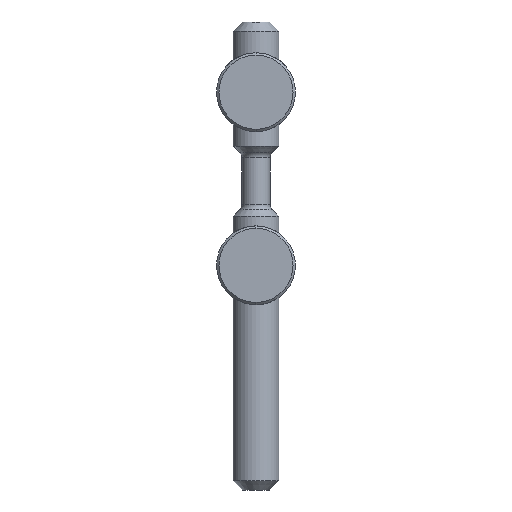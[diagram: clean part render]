
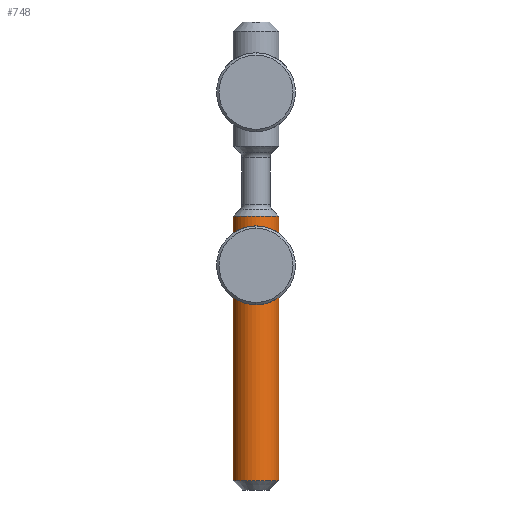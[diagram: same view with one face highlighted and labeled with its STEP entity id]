
A CAD part, front view. The second image highlights one B-rep face of the part: STEP entity #748.
In plain terms, the highlighted cylindrical face has radius 4.9 mm (diameter 9.8 mm), a partial arc.
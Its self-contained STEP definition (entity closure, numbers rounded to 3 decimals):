
#748 = ADVANCED_FACE ( 'NONE', ( #4900 ), #4901, .T. ) ;
#899 = CARTESIAN_POINT ( 'NONE',  ( 4.9, 0., -46. ) ) ;
#900 = CARTESIAN_POINT ( 'NONE',  ( -4.9, 0., -46. ) ) ;
#902 = CARTESIAN_POINT ( 'NONE',  ( -4.9, 0., 10.5 ) ) ;
#905 = CARTESIAN_POINT ( 'NONE',  ( 4.9, 0., 10.5 ) ) ;
#1074 = LINE ( 'NONE', #2908, #1080 ) ;
#1076 = VECTOR ( 'NONE', #2906, 1000. ) ;
#1077 = LINE ( 'NONE', #2905, #1076 ) ;
#1080 = VECTOR ( 'NONE', #2860, 1000. ) ;
#1104 = CIRCLE ( 'NONE', #1834, 4.9 ) ;
#1105 = CIRCLE ( 'NONE', #1835, 4.9 ) ;
#1247 = DIRECTION ( 'NONE',  ( 1., 0., 0. ) ) ;
#1248 = CARTESIAN_POINT ( 'NONE',  ( 0., 0., 25.719 ) ) ;
#1249 = DIRECTION ( 'NONE',  ( 0., 0., 1. ) ) ;
#1834 = AXIS2_PLACEMENT_3D ( 'NONE', #3029, #3030, #3031 ) ;
#1835 = AXIS2_PLACEMENT_3D ( 'NONE', #3034, #3035, #3036 ) ;
#2577 = EDGE_CURVE ( 'NONE', #5359, #5361, #1077, .T. ) ;
#2579 = EDGE_CURVE ( 'NONE', #5358, #5364, #1074, .T. ) ;
#2673 = EDGE_CURVE ( 'NONE', #5361, #5364, #1104, .T. ) ;
#2674 = EDGE_CURVE ( 'NONE', #5359, #5358, #1105, .T. ) ;
#2860 = DIRECTION ( 'NONE',  ( 0., 0., 1. ) ) ;
#2905 = CARTESIAN_POINT ( 'NONE',  ( -4.9, 0., 25.719 ) ) ;
#2906 = DIRECTION ( 'NONE',  ( 0., 0., 1. ) ) ;
#2908 = CARTESIAN_POINT ( 'NONE',  ( 4.9, 0., 25.719 ) ) ;
#3029 = CARTESIAN_POINT ( 'NONE',  ( 0., 0., 10.5 ) ) ;
#3030 = DIRECTION ( 'NONE',  ( 0., 0., 1. ) ) ;
#3031 = DIRECTION ( 'NONE',  ( 1., 0., 0. ) ) ;
#3034 = CARTESIAN_POINT ( 'NONE',  ( 0., 0., -46. ) ) ;
#3035 = DIRECTION ( 'NONE',  ( 0., 0., 1. ) ) ;
#3036 = DIRECTION ( 'NONE',  ( 1., 0., 0. ) ) ;
#4900 = FACE_OUTER_BOUND ( 'NONE', #5399, .T. ) ;
#4901 = CYLINDRICAL_SURFACE ( 'NONE', #4979, 4.9 ) ;
#4979 = AXIS2_PLACEMENT_3D ( 'NONE', #1248, #1249, #1247 ) ;
#5313 = ORIENTED_EDGE ( 'NONE', *, *, #2577, .F. ) ;
#5314 = ORIENTED_EDGE ( 'NONE', *, *, #2674, .T. ) ;
#5315 = ORIENTED_EDGE ( 'NONE', *, *, #2579, .T. ) ;
#5316 = ORIENTED_EDGE ( 'NONE', *, *, #2673, .F. ) ;
#5358 = VERTEX_POINT ( 'NONE', #899 ) ;
#5359 = VERTEX_POINT ( 'NONE', #900 ) ;
#5361 = VERTEX_POINT ( 'NONE', #902 ) ;
#5364 = VERTEX_POINT ( 'NONE', #905 ) ;
#5399 = EDGE_LOOP ( 'NONE', ( #5313, #5314, #5315, #5316 ) ) ;
